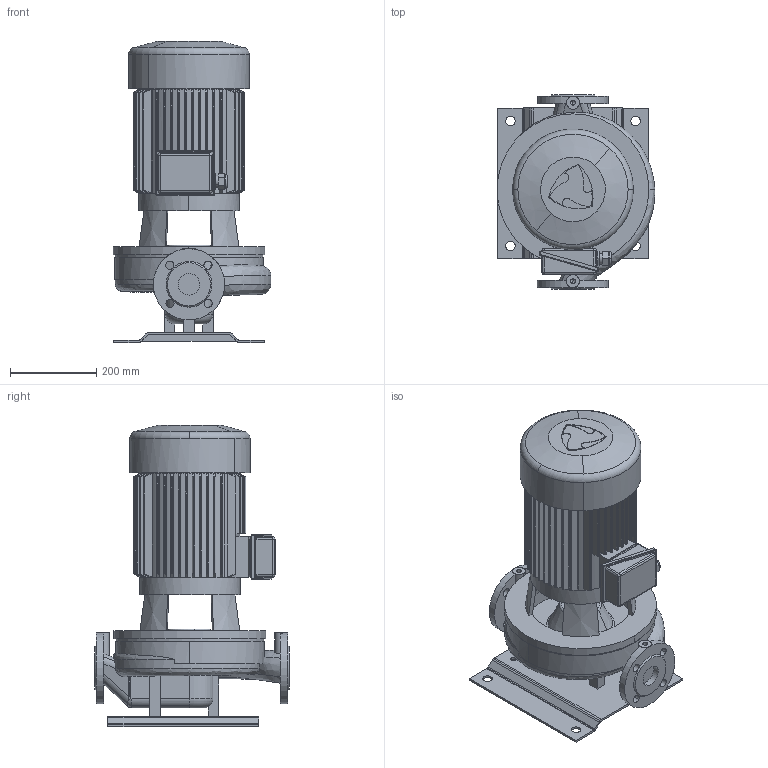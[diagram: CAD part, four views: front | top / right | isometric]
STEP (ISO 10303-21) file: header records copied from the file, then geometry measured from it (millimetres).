
FILE_DESCRIPTION(('STEP AP214'),'1');
FILE_NAME('export.stp','2018-05-29T06:53:39',(' '),(' '),'Spatial InterOp 3D',' ',' ');
FILE_SCHEMA(('AUTOMOTIVE_DESIGN { 1 0 10303 214 1 1 1 1 }'));
Length unit declared in the file: millimetre
Products named in the file (11): W_L50S4550_KP133; V_TLL50S80S; V_PPL50S; P100496; P100495; P100342; V_EKF29OKN132; V_MOKN133; RU_OKN_133; TSUOJA_OKN_132_133; KYTKOTELO_OKN_100_133
Assembly tree (11 placements, depth 3):
  W_L50S4550_KP133
    V_TLL50S80S
    V_PPL50S
    P100496
      P100495  x2
      P100342
    V_EKF29OKN132
    V_MOKN133
      RU_OKN_133
      TSUOJA_OKN_132_133
      KYTKOTELO_OKN_100_133
Bounding box: 366 x 450 x 698 mm (x, y, z)
Volume: 30781774 mm3; surface area: 2153132.4 mm2
Topology: 9 solids, 10 shells, 775 faces, 2008 edges, 1253 vertices
Faces by surface type: cylinder 332, plane 273, cone 100, bspline 46, torus 12, sphere 12
Entity records: 42076 total; most frequent: CARTESIAN_POINT 10903, ORIENTED_EDGE 3948, DIRECTION 3627, STYLED_ITEM 2140, PRESENTATION_STYLE_ASSIGNMENT 2140, COLOUR_RGB 2140, EDGE_CURVE 1974, AXIS2_PLACEMENT_3D 1449
